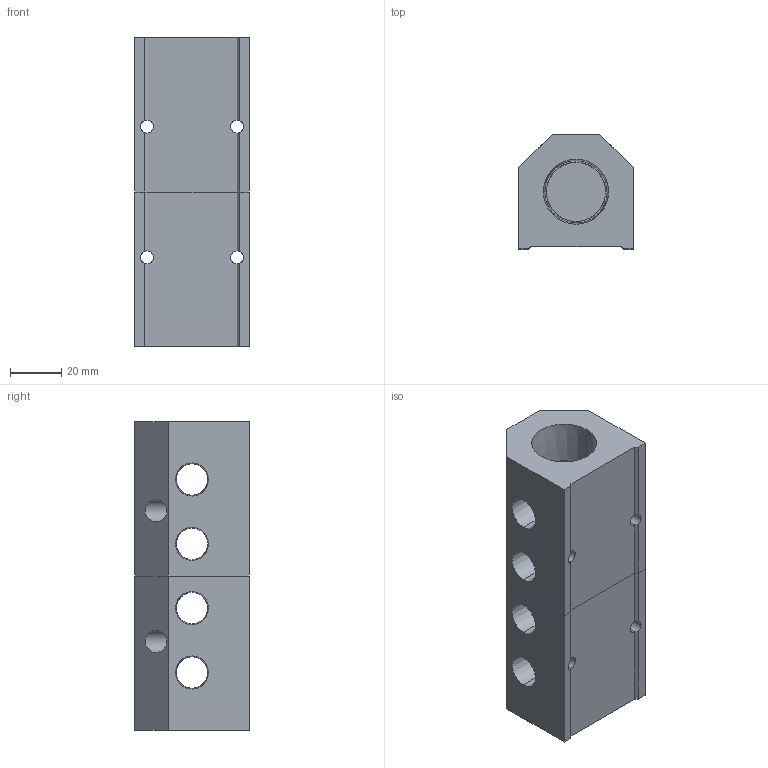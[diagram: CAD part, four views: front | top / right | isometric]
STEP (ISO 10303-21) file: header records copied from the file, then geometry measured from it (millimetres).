
FILE_DESCRIPTION (( 'STEP AP214' ), '1' );
FILE_NAME ('ALM4ACE-N4N12-120RB.step', '2022-02-06T14:18:37', ( '' ), ( '' ), 'SwSTEP 2.0', 'SolidWorks 2020', '' );
FILE_SCHEMA (( 'AUTOMOTIVE_DESIGN' ));
Length unit declared in the file: millimetre
Products named in the file (1): ALM4ACE-N4N12-120RB
Bounding box: 44.5 x 44.5 x 120 mm (x, y, z)
Volume: 141701.8 mm3; surface area: 39988.6 mm2
Topology: 2 solids, 2 shells, 366 faces, 987 edges, 650 vertices
Faces by surface type: plane 256, bspline 50, cone 34, cylinder 26
Entity records: 19417 total; most frequent: CARTESIAN_POINT 7068, ORIENTED_EDGE 1974, DIRECTION 1513, EDGE_CURVE 987, LINE 719, VECTOR 719, VERTEX_POINT 650, EDGE_LOOP 423
